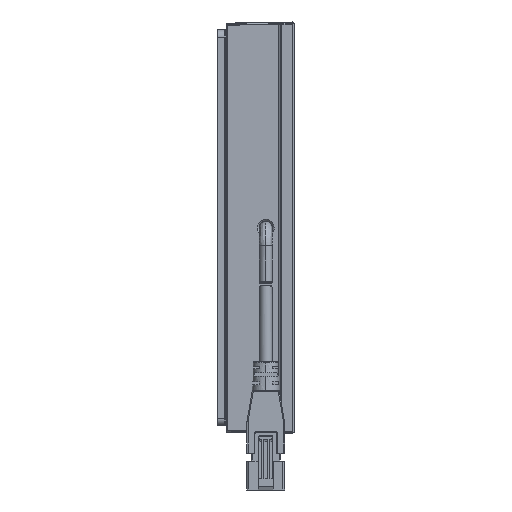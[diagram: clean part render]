
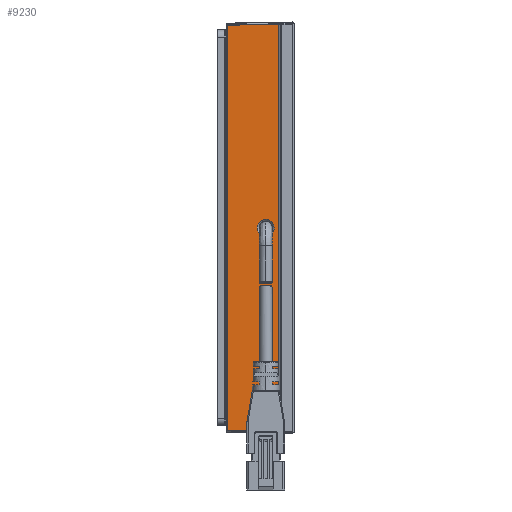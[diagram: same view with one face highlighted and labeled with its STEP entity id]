
A CAD part, front view. The second image highlights one B-rep face of the part: STEP entity #9230.
In plain terms, the highlighted planar face has unit normal (-0.018, -1, 0).
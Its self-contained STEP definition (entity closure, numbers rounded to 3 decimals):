
#6 = ORIENTED_EDGE ( 'NONE', *, *, #56998, .T. ) ;
#111 = VERTEX_POINT ( 'NONE', #38932 ) ;
#215 = CARTESIAN_POINT ( 'NONE',  ( -4., -57.5, -60.64 ) ) ;
#242 = ORIENTED_EDGE ( 'NONE', *, *, #31300, .T. ) ;
#1757 = CARTESIAN_POINT ( 'NONE',  ( -8.009, -57.43, -2.345 ) ) ;
#2349 = CARTESIAN_POINT ( 'NONE',  ( -9.285, -57.408, 2.008 ) ) ;
#3814 = CARTESIAN_POINT ( 'NONE',  ( -18.803, -57.242, -56.589 ) ) ;
#6484 = LINE ( 'NONE', #39441, #84269 ) ;
#8406 = CARTESIAN_POINT ( 'NONE',  ( -10.364, -57.389, -0.332 ) ) ;
#9230 = ADVANCED_FACE ( 'NONE', ( #47559, #79889 ), #82665, .T. ) ;
#10888 = CARTESIAN_POINT ( 'NONE',  ( -5.845, -57.468, 0.983 ) ) ;
#11502 = CARTESIAN_POINT ( 'NONE',  ( -7.791, -57.434, -2.345 ) ) ;
#13925 = LINE ( 'NONE', #54445, #46311 ) ;
#16383 = EDGE_LOOP ( 'NONE', ( #29273, #6 ) ) ;
#17864 = LINE ( 'NONE', #74303, #61026 ) ;
#18212 = CARTESIAN_POINT ( 'NONE',  ( -8.009, -57.43, -2.345 ) ) ;
#18515 = CARTESIAN_POINT ( 'NONE',  ( -5.852, -57.468, -0.996 ) ) ;
#22685 = ORIENTED_EDGE ( 'NONE', *, *, #82943, .T. ) ;
#22990 = CARTESIAN_POINT ( 'NONE',  ( -9.809, -57.399, -1.555 ) ) ;
#23288 = CARTESIAN_POINT ( 'NONE',  ( -8.226, -57.426, 2.345 ) ) ;
#25150 = CARTESIAN_POINT ( 'NONE',  ( -7.786, -57.434, 2.345 ) ) ;
#26138 = B_SPLINE_CURVE_WITH_KNOTS ( 'NONE', 3,
 ( #31413, #25150, #45321, #66671, #38668, #10888, #86094, #72156, #18515, #59474, #38050, #30793, #11502, #18212 ),
 .UNSPECIFIED., .F., .F.,
 ( 4, 1, 1, 1, 1, 1, 1, 1, 1, 1, 1, 4 ),
 ( 0., 0.001, 0.001, 0.002, 0.003, 0.003, 0.004, 0.005, 0.005, 0.006, 0.007, 0.007 ),
 .UNSPECIFIED. ) ;
#27289 = B_SPLINE_CURVE_WITH_KNOTS ( 'NONE', 3,
 ( #1757, #36769, #28945, #64496, #22990, #29822, #8406, #56723, #71166, #85120, #2349, #50710, #23288, #30114 ),
 .UNSPECIFIED., .F., .F.,
 ( 4, 1, 1, 1, 1, 1, 1, 1, 1, 1, 1, 4 ),
 ( 0., 0.001, 0.001, 0.002, 0.003, 0.003, 0.004, 0.005, 0.005, 0.006, 0.007, 0.007 ),
 .UNSPECIFIED. ) ;
#28013 = DIRECTION ( 'NONE',  ( -0.017, -1., 0. ) ) ;
#28509 = VERTEX_POINT ( 'NONE', #3814 ) ;
#28945 = CARTESIAN_POINT ( 'NONE',  ( -8.68, -57.418, -2.281 ) ) ;
#29273 = ORIENTED_EDGE ( 'NONE', *, *, #49772, .T. ) ;
#29822 = CARTESIAN_POINT ( 'NONE',  ( -10.175, -57.392, -0.984 ) ) ;
#30114 = CARTESIAN_POINT ( 'NONE',  ( -8.009, -57.43, 2.345 ) ) ;
#30793 = CARTESIAN_POINT ( 'NONE',  ( -7.359, -57.441, -2.286 ) ) ;
#31300 = EDGE_CURVE ( 'NONE', #59633, #38363, #17864, .T. ) ;
#31413 = CARTESIAN_POINT ( 'NONE',  ( -8.009, -57.43, 2.345 ) ) ;
#32506 = DIRECTION ( 'NONE',  ( 1., -0.017, -0.017 ) ) ;
#34810 = VERTEX_POINT ( 'NONE', #82498 ) ;
#36769 = CARTESIAN_POINT ( 'NONE',  ( -8.232, -57.426, -2.345 ) ) ;
#38050 = CARTESIAN_POINT ( 'NONE',  ( -6.734, -57.452, -2.007 ) ) ;
#38131 = LINE ( 'NONE', #74437, #45711 ) ;
#38363 = VERTEX_POINT ( 'NONE', #76979 ) ;
#38668 = CARTESIAN_POINT ( 'NONE',  ( -6.211, -57.461, 1.554 ) ) ;
#38932 = CARTESIAN_POINT ( 'NONE',  ( -18.803, -57.242, 56.589 ) ) ;
#39441 = CARTESIAN_POINT ( 'NONE',  ( -18.803, -57.242, -56.589 ) ) ;
#39572 = ORIENTED_EDGE ( 'NONE', *, *, #84367, .F. ) ;
#41933 = EDGE_CURVE ( 'NONE', #28509, #59633, #6484, .T. ) ;
#45321 = CARTESIAN_POINT ( 'NONE',  ( -7.339, -57.442, 2.281 ) ) ;
#45711 = VECTOR ( 'NONE', #80772, 1000. ) ;
#46311 = VECTOR ( 'NONE', #74329, 1000. ) ;
#47559 = FACE_BOUND ( 'NONE', #16383, .T. ) ;
#49772 = EDGE_CURVE ( 'NONE', #82088, #34810, #26138, .T. ) ;
#50710 = CARTESIAN_POINT ( 'NONE',  ( -8.659, -57.419, 2.287 ) ) ;
#54445 = CARTESIAN_POINT ( 'NONE',  ( -4.344, -57.494, 56.841 ) ) ;
#56723 = CARTESIAN_POINT ( 'NONE',  ( -10.362, -57.389, 0.346 ) ) ;
#56998 = EDGE_CURVE ( 'NONE', #34810, #82088, #27289, .T. ) ;
#59474 = CARTESIAN_POINT ( 'NONE',  ( -6.219, -57.461, -1.563 ) ) ;
#59633 = VERTEX_POINT ( 'NONE', #66749 ) ;
#61026 = VECTOR ( 'NONE', #81259, 1000. ) ;
#62128 = DIRECTION ( 'NONE',  ( 1., -0.017, 0. ) ) ;
#62732 = CARTESIAN_POINT ( 'NONE',  ( -8.009, -57.43, 2.345 ) ) ;
#64496 = CARTESIAN_POINT ( 'NONE',  ( -9.296, -57.408, -1.999 ) ) ;
#66671 = CARTESIAN_POINT ( 'NONE',  ( -6.722, -57.452, 1.998 ) ) ;
#66749 = CARTESIAN_POINT ( 'NONE',  ( -4.344, -57.494, -56.841 ) ) ;
#71166 = CARTESIAN_POINT ( 'NONE',  ( -10.168, -57.392, 0.997 ) ) ;
#72156 = CARTESIAN_POINT ( 'NONE',  ( -5.658, -57.471, -0.345 ) ) ;
#72729 = EDGE_LOOP ( 'NONE', ( #22685, #39572, #78487, #242 ) ) ;
#74303 = CARTESIAN_POINT ( 'NONE',  ( -4.344, -57.494, -60.64 ) ) ;
#74329 = DIRECTION ( 'NONE',  ( -1., 0.017, -0.017 ) ) ;
#74437 = CARTESIAN_POINT ( 'NONE',  ( -18.803, -57.242, 207.393 ) ) ;
#76979 = CARTESIAN_POINT ( 'NONE',  ( -4.344, -57.494, 56.841 ) ) ;
#78128 = AXIS2_PLACEMENT_3D ( 'NONE', #215, #28013, #62128 ) ;
#78487 = ORIENTED_EDGE ( 'NONE', *, *, #41933, .T. ) ;
#79889 = FACE_OUTER_BOUND ( 'NONE', #72729, .T. ) ;
#80772 = DIRECTION ( 'NONE',  ( 0., 0., 1. ) ) ;
#81259 = DIRECTION ( 'NONE',  ( 0., 0., 1. ) ) ;
#82088 = VERTEX_POINT ( 'NONE', #62732 ) ;
#82498 = CARTESIAN_POINT ( 'NONE',  ( -8.009, -57.43, -2.345 ) ) ;
#82665 = PLANE ( 'NONE',  #78128 ) ;
#82943 = EDGE_CURVE ( 'NONE', #38363, #111, #13925, .T. ) ;
#84269 = VECTOR ( 'NONE', #32506, 1000. ) ;
#84367 = EDGE_CURVE ( 'NONE', #28509, #111, #38131, .T. ) ;
#85120 = CARTESIAN_POINT ( 'NONE',  ( -9.8, -57.399, 1.564 ) ) ;
#86094 = CARTESIAN_POINT ( 'NONE',  ( -5.656, -57.471, 0.332 ) ) ;
